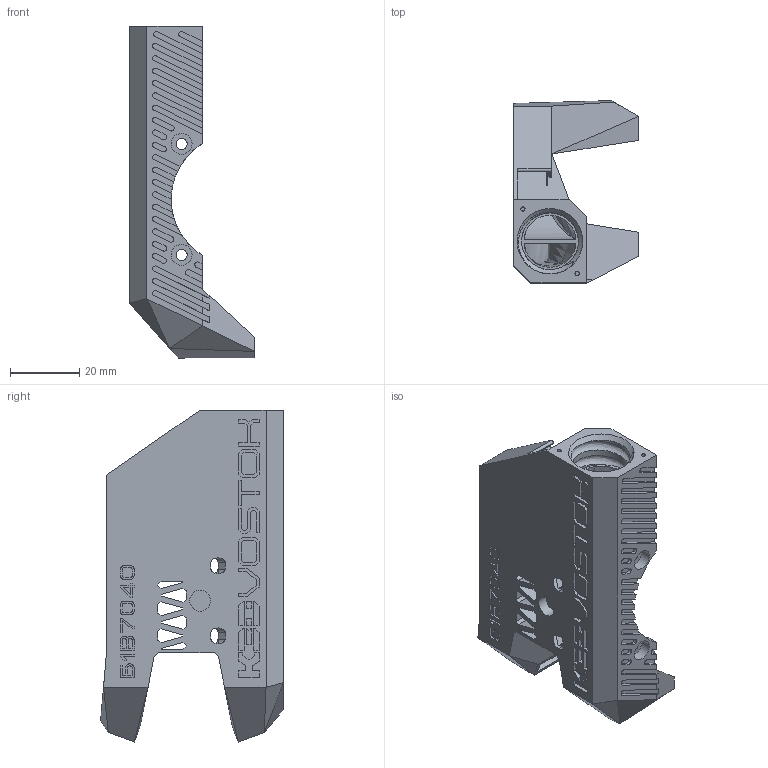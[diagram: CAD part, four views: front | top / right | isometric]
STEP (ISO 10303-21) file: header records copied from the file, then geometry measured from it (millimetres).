
FILE_DESCRIPTION(/* description */ ('CAx-IF Rec.Pracs.---Representation and Presentation of Product Manufacturing Information (PMI)---4.0---2014-10-13','CAx-IF Rec.Pracs.---3D Tessellated Geometry---0.4---2014-09-14','2;1'),/* implementation_level */ '2;1');
FILE_NAME(/* name */ 'B1V7040',/* time_stamp */ '2025-06-14T03:28:23+03:00',/* author */ (''),/* organization */ (''),/* preprocessor_version */ 'ST-DEVELOPER v20',/* originating_system */ 'SIEMENS PLM Software NX2406.6001',/* authorisation */ $);
FILE_SCHEMA (('AP242_MANAGED_MODEL_BASED_3D_ENGINEERING_MIM_LF { 1 0 10303 442 3 1 4 }'));
Length unit declared in the file: millimetre
Products named in the file (1): B1V7040
Bounding box: 36 x 52.7 x 95.72 mm (x, y, z)
Volume: 31103.5 mm3; surface area: 25105.1 mm2
Topology: 1 solids, 1 shells, 564 faces, 1569 edges, 1035 vertices
Faces by surface type: plane 412, cylinder 92, bspline 56, cone 4
Full cylindrical faces by diameter (mm): 1.2 x2, 3.2 x3, 6 x3
Entity records: 23015 total; most frequent: CARTESIAN_POINT 8091, ORIENTED_EDGE 3104, DIRECTION 2275, EDGE_CURVE 1552, VERTEX_POINT 1030, LINE 855, VECTOR 855, AXIS2_PLACEMENT_3D 710
